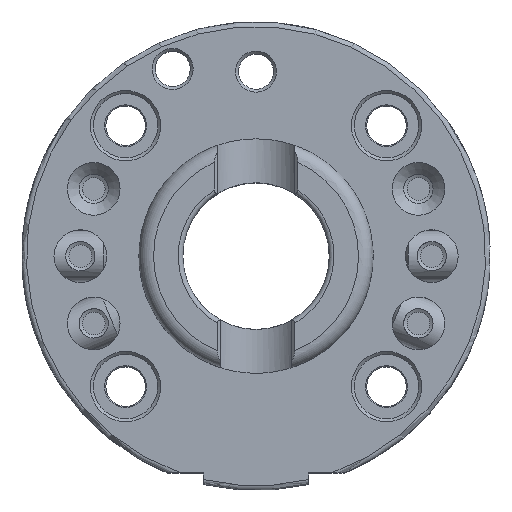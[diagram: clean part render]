
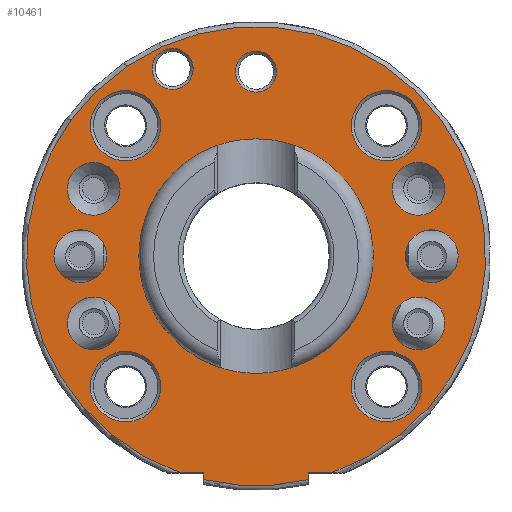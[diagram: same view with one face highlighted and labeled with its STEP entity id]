
A CAD part, top view. The second image highlights one B-rep face of the part: STEP entity #10461.
In plain terms, the highlighted planar face has unit normal (0, 0, 1).
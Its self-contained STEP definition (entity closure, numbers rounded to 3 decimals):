
#338=FACE_BOUND('',#1761,.T.);
#339=FACE_BOUND('',#1762,.T.);
#340=FACE_BOUND('',#1763,.T.);
#341=FACE_BOUND('',#1764,.T.);
#342=FACE_BOUND('',#1765,.T.);
#343=FACE_BOUND('',#1766,.T.);
#344=FACE_BOUND('',#1767,.T.);
#345=FACE_BOUND('',#1768,.T.);
#346=FACE_BOUND('',#1769,.T.);
#347=FACE_BOUND('',#1770,.T.);
#348=FACE_BOUND('',#1771,.T.);
#349=FACE_BOUND('',#1772,.T.);
#350=FACE_BOUND('',#1773,.T.);
#553=PLANE('',#11019);
#1131=FACE_OUTER_BOUND('',#1760,.T.);
#1760=EDGE_LOOP('',(#8991,#8992,#8993,#8994,#8995,#8996));
#1761=EDGE_LOOP('',(#8997));
#1762=EDGE_LOOP('',(#8998));
#1763=EDGE_LOOP('',(#8999));
#1764=EDGE_LOOP('',(#9000));
#1765=EDGE_LOOP('',(#9001));
#1766=EDGE_LOOP('',(#9002));
#1767=EDGE_LOOP('',(#9003));
#1768=EDGE_LOOP('',(#9004));
#1769=EDGE_LOOP('',(#9005));
#1770=EDGE_LOOP('',(#9006));
#1771=EDGE_LOOP('',(#9007));
#1772=EDGE_LOOP('',(#9008));
#1773=EDGE_LOOP('',(#9009));
#1950=CIRCLE('',#10908,39.2);
#2011=CIRCLE('',#11018,3.5);
#2012=CIRCLE('',#11020,39.2);
#2013=CIRCLE('',#11021,3.5);
#2014=CIRCLE('',#11022,4.5);
#2015=CIRCLE('',#11023,4.5);
#2016=CIRCLE('',#11024,4.5);
#2017=CIRCLE('',#11025,6.);
#2018=CIRCLE('',#11026,6.);
#2019=CIRCLE('',#11027,20.);
#2020=CIRCLE('',#11028,6.);
#2021=CIRCLE('',#11029,6.);
#2022=CIRCLE('',#11030,4.5);
#2023=CIRCLE('',#11031,4.5);
#2024=CIRCLE('',#11032,4.5);
#2675=LINE('',#37141,#3349);
#2678=LINE('',#37156,#3352);
#2686=LINE('',#37184,#3360);
#2687=LINE('',#37187,#3361);
#3349=VECTOR('',#12652,10.);
#3352=VECTOR('',#12669,10.);
#3360=VECTOR('',#12703,10.);
#3361=VECTOR('',#12706,10.);
#4785=VERTEX_POINT('',#36821);
#4786=VERTEX_POINT('',#36834);
#4849=VERTEX_POINT('',#37139);
#4854=VERTEX_POINT('',#37155);
#4860=VERTEX_POINT('',#37179);
#4861=VERTEX_POINT('',#37183);
#4862=VERTEX_POINT('',#37185);
#4863=VERTEX_POINT('',#37188);
#4864=VERTEX_POINT('',#37190);
#4865=VERTEX_POINT('',#37192);
#4866=VERTEX_POINT('',#37194);
#4867=VERTEX_POINT('',#37196);
#4868=VERTEX_POINT('',#37198);
#4869=VERTEX_POINT('',#37200);
#4870=VERTEX_POINT('',#37202);
#4871=VERTEX_POINT('',#37204);
#4872=VERTEX_POINT('',#37206);
#4873=VERTEX_POINT('',#37208);
#4874=VERTEX_POINT('',#37210);
#6171=EDGE_CURVE('',#4785,#4786,#1950,.T.);
#6261=EDGE_CURVE('',#4785,#4849,#2675,.T.);
#6268=EDGE_CURVE('',#4854,#4786,#2678,.T.);
#6278=EDGE_CURVE('',#4860,#4860,#2011,.T.);
#6280=EDGE_CURVE('',#4849,#4861,#2686,.T.);
#6281=EDGE_CURVE('',#4862,#4861,#2012,.T.);
#6282=EDGE_CURVE('',#4862,#4854,#2687,.T.);
#6283=EDGE_CURVE('',#4863,#4863,#2013,.T.);
#6284=EDGE_CURVE('',#4864,#4864,#2014,.T.);
#6285=EDGE_CURVE('',#4865,#4865,#2015,.T.);
#6286=EDGE_CURVE('',#4866,#4866,#2016,.T.);
#6287=EDGE_CURVE('',#4867,#4867,#2017,.T.);
#6288=EDGE_CURVE('',#4868,#4868,#2018,.T.);
#6289=EDGE_CURVE('',#4869,#4869,#2019,.T.);
#6290=EDGE_CURVE('',#4870,#4870,#2020,.T.);
#6291=EDGE_CURVE('',#4871,#4871,#2021,.T.);
#6292=EDGE_CURVE('',#4872,#4872,#2022,.T.);
#6293=EDGE_CURVE('',#4873,#4873,#2023,.T.);
#6294=EDGE_CURVE('',#4874,#4874,#2024,.T.);
#8991=ORIENTED_EDGE('',*,*,#6261,.T.);
#8992=ORIENTED_EDGE('',*,*,#6280,.T.);
#8993=ORIENTED_EDGE('',*,*,#6281,.F.);
#8994=ORIENTED_EDGE('',*,*,#6282,.T.);
#8995=ORIENTED_EDGE('',*,*,#6268,.T.);
#8996=ORIENTED_EDGE('',*,*,#6171,.F.);
#8997=ORIENTED_EDGE('',*,*,#6283,.F.);
#8998=ORIENTED_EDGE('',*,*,#6284,.F.);
#8999=ORIENTED_EDGE('',*,*,#6285,.F.);
#9000=ORIENTED_EDGE('',*,*,#6286,.F.);
#9001=ORIENTED_EDGE('',*,*,#6287,.F.);
#9002=ORIENTED_EDGE('',*,*,#6288,.F.);
#9003=ORIENTED_EDGE('',*,*,#6289,.F.);
#9004=ORIENTED_EDGE('',*,*,#6290,.F.);
#9005=ORIENTED_EDGE('',*,*,#6291,.F.);
#9006=ORIENTED_EDGE('',*,*,#6292,.F.);
#9007=ORIENTED_EDGE('',*,*,#6293,.F.);
#9008=ORIENTED_EDGE('',*,*,#6294,.F.);
#9009=ORIENTED_EDGE('',*,*,#6278,.F.);
#10461=ADVANCED_FACE('',(#1131,#338,#339,#340,#341,#342,#343,#344,#345,
#346,#347,#348,#349,#350),#553,.T.);
#10908=AXIS2_PLACEMENT_3D('',#36835,#12439,#12440);
#11018=AXIS2_PLACEMENT_3D('',#37180,#12698,#12699);
#11019=AXIS2_PLACEMENT_3D('',#37182,#12701,#12702);
#11020=AXIS2_PLACEMENT_3D('',#37186,#12704,#12705);
#11021=AXIS2_PLACEMENT_3D('',#37189,#12707,#12708);
#11022=AXIS2_PLACEMENT_3D('',#37191,#12709,#12710);
#11023=AXIS2_PLACEMENT_3D('',#37193,#12711,#12712);
#11024=AXIS2_PLACEMENT_3D('',#37195,#12713,#12714);
#11025=AXIS2_PLACEMENT_3D('',#37197,#12715,#12716);
#11026=AXIS2_PLACEMENT_3D('',#37199,#12717,#12718);
#11027=AXIS2_PLACEMENT_3D('',#37201,#12719,#12720);
#11028=AXIS2_PLACEMENT_3D('',#37203,#12721,#12722);
#11029=AXIS2_PLACEMENT_3D('',#37205,#12723,#12724);
#11030=AXIS2_PLACEMENT_3D('',#37207,#12725,#12726);
#11031=AXIS2_PLACEMENT_3D('',#37209,#12727,#12728);
#11032=AXIS2_PLACEMENT_3D('',#37211,#12729,#12730);
#12439=DIRECTION('center_axis',(0.,0.,
-1.));
#12440=DIRECTION('ref_axis',(0.,1.,0.));
#12652=DIRECTION('',(1.,0.,0.));
#12669=DIRECTION('',(1.,0.,0.));
#12698=DIRECTION('center_axis',(0.,0.,
1.));
#12699=DIRECTION('ref_axis',(-1.,0.,0.));
#12701=DIRECTION('center_axis',(0.,0.,
1.));
#12702=DIRECTION('ref_axis',(1.,0.,0.));
#12703=DIRECTION('',(0.,-1.,0.));
#12704=DIRECTION('center_axis',(0.,0.,
-1.));
#12705=DIRECTION('ref_axis',(0.,1.,0.));
#12706=DIRECTION('',(0.,1.,0.));
#12707=DIRECTION('center_axis',(0.,0.,
1.));
#12708=DIRECTION('ref_axis',(1.,0.,0.));
#12709=DIRECTION('center_axis',(0.,0.,
1.));
#12710=DIRECTION('ref_axis',(-1.,0.,0.));
#12711=DIRECTION('center_axis',(0.,0.,
1.));
#12712=DIRECTION('ref_axis',(-1.,0.,0.));
#12713=DIRECTION('center_axis',(0.,0.,
1.));
#12714=DIRECTION('ref_axis',(-1.,0.,0.));
#12715=DIRECTION('center_axis',(0.,0.,
1.));
#12716=DIRECTION('ref_axis',(-1.,0.,0.));
#12717=DIRECTION('center_axis',(0.,0.,
1.));
#12718=DIRECTION('ref_axis',(-1.,0.,0.));
#12719=DIRECTION('center_axis',(0.,0.,
1.));
#12720=DIRECTION('ref_axis',(1.,0.,0.));
#12721=DIRECTION('center_axis',(0.,0.,
1.));
#12722=DIRECTION('ref_axis',(-1.,0.,0.));
#12723=DIRECTION('center_axis',(0.,0.,
1.));
#12724=DIRECTION('ref_axis',(-1.,0.,0.));
#12725=DIRECTION('center_axis',(0.,0.,
1.));
#12726=DIRECTION('ref_axis',(-1.,0.,0.));
#12727=DIRECTION('center_axis',(0.,0.,
1.));
#12728=DIRECTION('ref_axis',(-1.,0.,0.));
#12729=DIRECTION('center_axis',(0.,0.,
1.));
#12730=DIRECTION('ref_axis',(-1.,0.,0.));
#36821=CARTESIAN_POINT('',(-5.135,-32.255,0.));
#36834=CARTESIAN_POINT('',(20.76,-32.255,0.));
#36835=CARTESIAN_POINT('Origin',(7.812,4.745,0.));
#37139=CARTESIAN_POINT('',(-1.188,-32.255,0.));
#37141=CARTESIAN_POINT('',(-4.688,-32.255,0.));
#37155=CARTESIAN_POINT('',(16.812,-32.255,0.));
#37156=CARTESIAN_POINT('',(12.312,-32.255,0.));
#37179=CARTESIAN_POINT('',(11.312,36.245,0.));
#37180=CARTESIAN_POINT('Origin',(7.812,36.245,0.));
#37182=CARTESIAN_POINT('Origin',(7.812,-15.255,0.));
#37183=CARTESIAN_POINT('',(-1.188,-33.407,0.));
#37184=CARTESIAN_POINT('',(-1.188,-23.755,0.));
#37185=CARTESIAN_POINT('',(16.812,-33.407,0.));
#37186=CARTESIAN_POINT('Origin',(7.812,4.745,0.));
#37187=CARTESIAN_POINT('',(16.812,-25.255,0.));
#37188=CARTESIAN_POINT('',(-9.923,36.72,0.));
#37189=CARTESIAN_POINT('Origin',(-6.423,36.72,0.));
#37190=CARTESIAN_POINT('',(-17.688,4.745,0.));
#37191=CARTESIAN_POINT('Origin',(-22.188,4.745,0.));
#37192=CARTESIAN_POINT('',(40.029,16.226,0.));
#37193=CARTESIAN_POINT('Origin',(35.529,16.226,0.));
#37194=CARTESIAN_POINT('',(-15.404,-6.735,0.));
#37195=CARTESIAN_POINT('Origin',(-19.904,-6.735,0.));
#37196=CARTESIAN_POINT('',(-8.462,27.019,0.));
#37197=CARTESIAN_POINT('Origin',(-14.462,27.019,0.));
#37198=CARTESIAN_POINT('',(36.086,-17.528,0.));
#37199=CARTESIAN_POINT('Origin',(30.086,-17.528,0.));
#37200=CARTESIAN_POINT('',(7.812,24.745,0.));
#37201=CARTESIAN_POINT('Origin',(7.812,4.745,0.));
#37202=CARTESIAN_POINT('',(36.086,27.019,0.));
#37203=CARTESIAN_POINT('Origin',(30.086,27.019,0.));
#37204=CARTESIAN_POINT('',(-8.462,-17.528,0.));
#37205=CARTESIAN_POINT('Origin',(-14.462,-17.528,0.));
#37206=CARTESIAN_POINT('',(-15.404,16.226,0.));
#37207=CARTESIAN_POINT('Origin',(-19.904,16.226,0.));
#37208=CARTESIAN_POINT('',(40.029,-6.735,0.));
#37209=CARTESIAN_POINT('Origin',(35.529,-6.735,0.));
#37210=CARTESIAN_POINT('',(42.312,4.745,0.));
#37211=CARTESIAN_POINT('Origin',(37.812,4.745,0.));
